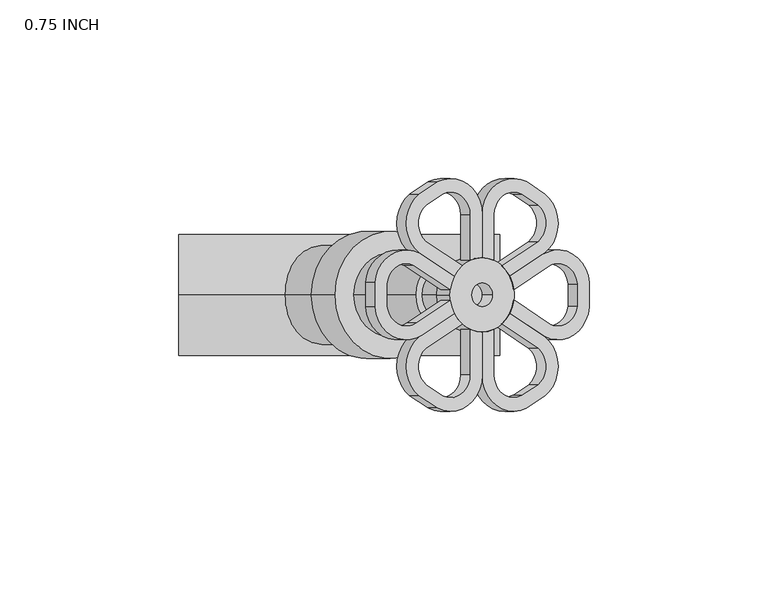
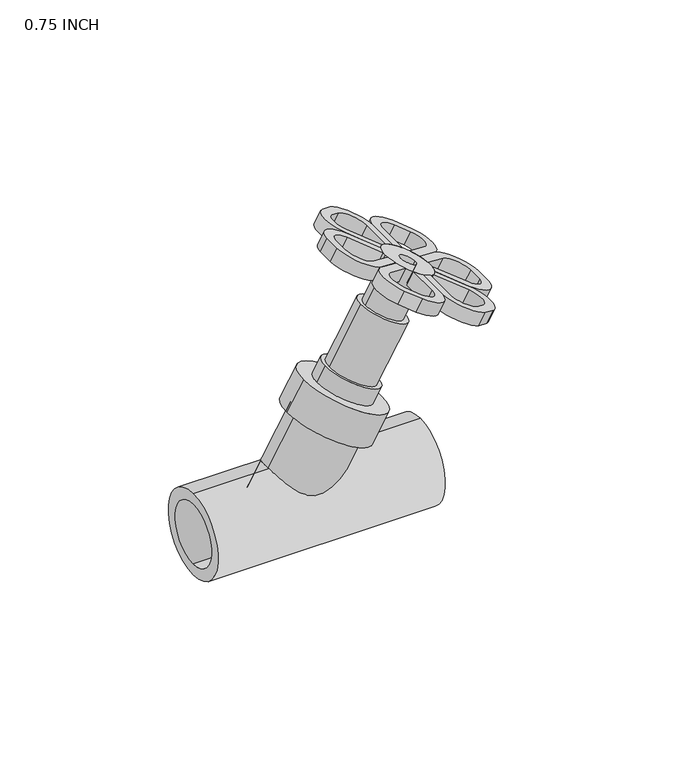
"""IFC4 building model written with IfcOpenShell, lengths in millimetres: valve geometry, Aquatherm - Inclined Check Valve without drain : 0.75 INCH."""

from ifc_helpers import new_model, si_unit, point, frame, frame_2d, origin, origin_2d, place, context, project, spatial, polyline, circle_curve, trimmed, segment, composite_curve, outline, extrude, source, transform, mapped, element, save
from ifc_brep_helpers import plane_surface, cylinder_surface, revolved_surface, advanced_brep


def valve_0_75_inch_640fbae8(model_context):
    return source(origin(), model_context, "Body", "SolidModel", [
        advanced_brep(
        [(114.5402275, 10.5951948, 70.7865852), (127.673244, 2.812243, 63.2042345), (127.6933625, -4.0695455, 63.1926191), (115.3276595, -12.3087434, 70.331961), (105.5382614, -5.7824779, 75.9838727), (106.6315816, -2.111949, 75.352644), (116.8175611, -8.902602, 69.471766), (124.3952492, -3.6900946, 65.0967857), (124.4112835, 2.4387005, 65.0875283), (116.1900059, 7.295638, 69.8340852), (106.6189846, 0.9149571, 75.3599169), (105.5106894, 4.5755028, 75.9997914), (117.2072275, 10.5951948, 75.4059647), (108.1776894, 4.5755028, 80.6191709), (109.2859846, 0.9149571, 79.9792964), (118.8570059, 7.295638, 74.4534647), (127.0567944, 2.4362397, 69.7193145), (127.077063, -3.691799, 69.7076124), (119.4845611, -8.902602, 74.0911455), (109.2985816, -2.111949, 79.9720235), (108.2052614, -5.7824779, 80.6032522), (117.9946595, -12.3087434, 74.9513405), (130.3455487, -4.0678412, 67.8205514), (130.3617331, 2.8147039, 67.8112073)],
        [
            (0, 1, circle_curve(frame((118.9321929, 1.8112639, 68.2508827), z_axis=(-0.49999999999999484, 0.0, -0.8660254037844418), x_axis=(0.4330127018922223, -0.866025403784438, -0.24999999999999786)), 10.1428098)),
            (1, 2, circle_curve(frame((97.7058937, -0.6194603, 80.5058923), z_axis=(-0.49999999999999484, 0.0, -0.8660254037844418), x_axis=(0.4330127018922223, -0.866025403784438, -0.24999999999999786)), 34.798)),
            (2, 3, circle_curve(frame((118.9378972, -3.0622214, 68.2475894), z_axis=(-0.49999999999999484, 0.0, -0.8660254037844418), x_axis=(0.4330127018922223, -0.866025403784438, -0.24999999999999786)), 10.1428098)),
            (3, 4),
            (4, 5, circle_curve(frame((97.7058937, -0.6194603, 80.5058923), z_axis=(0.49999999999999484, 0.0, 0.8660254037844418), x_axis=(0.41622412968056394, 0.8769321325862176, -0.2403071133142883)), 10.414)),
            (5, 6),
            (6, 7, circle_curve(frame((118.9378972, -3.0622214, 68.2475894), z_axis=(0.49999999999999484, 0.0, 0.8660254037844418), x_axis=(0.4330127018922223, -0.866025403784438, -0.24999999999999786)), 6.3328098)),
            (7, 8, circle_curve(frame((97.7058937, -0.6194603, 80.5058923), z_axis=(0.49999999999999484, 0.0, 0.8660254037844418), x_axis=(0.4330127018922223, -0.866025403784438, -0.24999999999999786)), 30.988)),
            (8, 9, circle_curve(frame((118.9321929, 1.8112639, 68.2508827), z_axis=(0.49999999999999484, 0.0, 0.8660254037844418), x_axis=(0.4330127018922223, -0.866025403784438, -0.24999999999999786)), 6.3328098)),
            (9, 10),
            (10, 11, circle_curve(frame((97.7001894, -0.6314972, 80.5091856), z_axis=(0.49999999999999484, 0.0, 0.8660254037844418), x_axis=(0.4330127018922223, -0.866025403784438, -0.24999999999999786)), 10.414)),
            (11, 0),
            (12, 13),
            (13, 14, circle_curve(frame((100.3671894, -0.6314972, 85.1285651), z_axis=(-0.49999999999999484, 0.0, -0.8660254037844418), x_axis=(0.4330127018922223, -0.866025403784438, -0.24999999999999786)), 10.414)),
            (14, 15),
            (15, 16, circle_curve(frame((121.5991929, 1.8112639, 72.8702622), z_axis=(-0.49999999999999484, 0.0, -0.8660254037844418), x_axis=(0.4330127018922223, -0.866025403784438, -0.24999999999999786)), 6.3328098)),
            (16, 17, circle_curve(frame((100.3728937, -0.6194603, 85.1252718), z_axis=(-0.49999999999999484, 0.0, -0.8660254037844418), x_axis=(0.4330127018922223, -0.866025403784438, -0.24999999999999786)), 30.988)),
            (17, 18, circle_curve(frame((121.6048972, -3.0622214, 72.8669689), z_axis=(-0.49999999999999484, 0.0, -0.8660254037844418), x_axis=(0.4330127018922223, -0.866025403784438, -0.24999999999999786)), 6.3328098)),
            (18, 19),
            (19, 20, circle_curve(frame((100.3728937, -0.6194603, 85.1252718), z_axis=(-0.49999999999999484, 0.0, -0.8660254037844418), x_axis=(0.41622412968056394, 0.8769321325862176, -0.2403071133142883)), 10.414)),
            (20, 21),
            (21, 22, circle_curve(frame((121.6048972, -3.0622214, 72.8669689), z_axis=(0.49999999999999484, 0.0, 0.8660254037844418), x_axis=(0.4330127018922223, -0.866025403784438, -0.24999999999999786)), 10.1428098)),
            (22, 23, circle_curve(frame((100.3728937, -0.6194603, 85.1252718), z_axis=(0.49999999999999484, 0.0, 0.8660254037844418), x_axis=(0.4330127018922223, -0.866025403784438, -0.24999999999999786)), 34.798)),
            (23, 12, circle_curve(frame((121.5991929, 1.8112639, 72.8702622), z_axis=(0.49999999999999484, 0.0, 0.8660254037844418), x_axis=(0.4330127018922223, -0.866025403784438, -0.24999999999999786)), 10.1428098)),
            (11, 13),
            (12, 0),
            (10, 14),
            (9, 15),
            (8, 16),
            (7, 17),
            (6, 18),
            (5, 19),
            (4, 20),
            (3, 21),
            (2, 22),
            (1, 23),
        ],
        [
            plane_surface(frame((123.3241584, -6.9726671, 65.7151803), z_axis=(-0.4999999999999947, 0.0, -0.8660254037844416), x_axis=(-0.7500000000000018, -0.5000000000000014, 0.43301270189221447))),
            plane_surface(frame((125.9911584, -6.9726671, 70.3345598), z_axis=(0.4999999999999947, 0.0, 0.8660254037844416), x_axis=(0.7500000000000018, 0.5000000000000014, -0.43301270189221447))),
            plane_surface(frame((105.5106894, 4.5755028, 75.9997914), z_axis=(-0.43301270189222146, 0.8660254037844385, 0.24999999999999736), x_axis=(0.49999999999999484, 0.0, 0.8660254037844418))),
            revolved_surface(polyline([(104.87658372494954, -9.650285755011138, 82.52506518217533), (102.2095836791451, -9.650285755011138, 77.90568559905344)]), (100.3671894, -0.6314972, 85.1285651), (0.49999999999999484, 0.0, 0.8660254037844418)),
            plane_surface(frame((116.1900059, 7.295638, 69.8340852), z_axis=(0.43301270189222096, -0.8660254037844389, -0.24999999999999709), x_axis=(0.49999999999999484, 0.0, 0.8660254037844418))),
            revolved_surface(polyline([(124.34138002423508, -3.6731102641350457, 71.2870598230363), (121.67437998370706, -3.6731102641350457, 66.66768024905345)]), (121.5991929, 1.8112639, 72.8702622), (0.49999999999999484, 0.0, 0.8660254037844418)),
            revolved_surface(polyline([(113.79109130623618, -27.455855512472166, 77.37827180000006), (111.12409130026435, -27.455855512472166, 72.7588922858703)]), (100.3728937, -0.6194603, 85.1252718), (0.49999999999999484, 0.0, 0.8660254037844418)),
            revolved_surface(polyline([(124.34708428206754, -8.546595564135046, 71.28376645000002), (121.68008426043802, -8.546595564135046, 66.66438690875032)]), (121.6048972, -3.0622214, 72.8669689), (0.49999999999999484, 0.0, 0.8660254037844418)),
            plane_surface(frame((106.6315816, -2.111949, 75.352644), z_axis=(0.4330127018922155, 0.8660254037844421, -0.2499999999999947), x_axis=(0.49999999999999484, 0.0, 0.8660254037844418))),
            revolved_surface(polyline([(104.70745179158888, 8.51291092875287, 82.62271353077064), (102.0404517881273, 8.51291092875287, 78.00333402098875)]), (100.3728937, -0.6194603, 85.1252718), (0.49999999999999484, 0.0, 0.8660254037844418)),
            plane_surface(frame((115.3276595, -12.3087434, 70.331961), z_axis=(-0.43301270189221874, -0.8660254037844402, 0.24999999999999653), x_axis=(0.49999999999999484, 0.0, 0.8660254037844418))),
            cylinder_surface(frame((121.6048972, -3.0622214, 72.8669689), z_axis=(-0.49999999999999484, 0.0, -0.8660254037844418), x_axis=(0.4330127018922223, -0.866025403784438, -0.24999999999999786)), 10.1428098),
            cylinder_surface(frame((100.3728937, -0.6194603, 85.1252718), z_axis=(-0.49999999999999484, 0.0, -0.8660254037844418), x_axis=(0.4330127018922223, -0.866025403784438, -0.24999999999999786)), 34.798),
            cylinder_surface(frame((121.5991929, 1.8112639, 72.8702622), z_axis=(-0.49999999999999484, 0.0, -0.8660254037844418), x_axis=(0.4330127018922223, -0.866025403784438, -0.24999999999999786)), 10.1428098),
        ],
        [
            (0, [[1, 2, 3, 4, 5, 6, 7, 8, 9, 10, 11, 12]]),
            (1, [[13, 14, 15, 16, 17, 18, 19, 20, 21, 22, 23, 24]]),
            (2, [[-12, 25, -13, 26]]),
            (3, [[-11, 27, -14, -25]]),
            (4, [[-10, 28, -15, -27]]),
            (5, [[-9, 29, -16, -28]]),
            (6, [[-8, 30, -17, -29]]),
            (7, [[-7, 31, -18, -30]]),
            (8, [[-6, 32, -19, -31]]),
            (9, [[-5, 33, -20, -32]]),
            (10, [[-4, 34, -21, -33]]),
            (11, [[-3, 35, -22, -34]]),
            (12, [[-2, 36, -23, -35]]),
            (13, [[-1, -26, -24, -36]]),
        ],
    ),
        advanced_brep(
        [(80.8601514, -11.8581892, 90.2317861), (67.7271349, -4.0752375, 97.8141367), (67.7070164, 2.8065511, 97.8257522), (80.0727194, 11.0457489, 90.6864102), (89.8621175, 4.5194835, 85.0344986), (88.7687973, 0.8489546, 85.6657273), (78.5828178, 7.6396076, 91.5466053), (71.0051297, 2.4271002, 95.9215856), (70.9890953, -3.7016949, 95.930843), (79.210373, -8.5586324, 91.1842861), (88.7813943, -2.1779516, 85.6584544), (89.8896894, -5.8384972, 85.0185799), (83.5271514, -11.8581892, 94.8511656), (92.5566894, -5.8384972, 89.6379594), (91.4483943, -2.1779516, 90.2778339), (81.877373, -8.5586324, 95.8036656), (73.6775845, -3.6992341, 100.5378157), (73.6573159, 2.4288045, 100.5495178), (81.2498178, 7.6396076, 96.1659848), (91.4357973, 0.8489546, 90.2851068), (92.5291175, 4.5194835, 89.6538781), (82.7397194, 11.0457489, 95.3057897), (70.3888302, 2.8048467, 102.4365789), (70.3726458, -4.0776983, 102.445923)],
        [
            (0, 1, circle_curve(frame((76.468186, -3.0742583, 92.7674886), z_axis=(-0.49999999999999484, 0.0, -0.8660254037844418), x_axis=(-0.4330127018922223, 0.866025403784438, 0.24999999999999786)), 10.1428098)),
            (1, 2, circle_curve(frame((97.6944852, -0.6435341, 80.512479), z_axis=(-0.49999999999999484, 0.0, -0.8660254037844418), x_axis=(-0.4330127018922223, 0.866025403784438, 0.24999999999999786)), 34.798)),
            (2, 3, circle_curve(frame((76.4624817, 1.7992269, 92.7707819), z_axis=(-0.49999999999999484, 0.0, -0.8660254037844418), x_axis=(-0.4330127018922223, 0.866025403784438, 0.24999999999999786)), 10.1428098)),
            (3, 4),
            (4, 5, circle_curve(frame((97.6944852, -0.6435341, 80.512479), z_axis=(0.49999999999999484, 0.0, 0.8660254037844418), x_axis=(-0.41622412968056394, -0.8769321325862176, 0.2403071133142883)), 10.414)),
            (5, 6),
            (6, 7, circle_curve(frame((76.4624817, 1.7992269, 92.7707819), z_axis=(0.49999999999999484, 0.0, 0.8660254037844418), x_axis=(-0.4330127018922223, 0.866025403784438, 0.24999999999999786)), 6.3328098)),
            (7, 8, circle_curve(frame((97.6944852, -0.6435341, 80.512479), z_axis=(0.49999999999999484, 0.0, 0.8660254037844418), x_axis=(-0.4330127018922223, 0.866025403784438, 0.24999999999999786)), 30.988)),
            (8, 9, circle_curve(frame((76.468186, -3.0742583, 92.7674886), z_axis=(0.49999999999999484, 0.0, 0.8660254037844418), x_axis=(-0.4330127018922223, 0.866025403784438, 0.24999999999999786)), 6.3328098)),
            (9, 10),
            (10, 11, circle_curve(frame((97.7001894, -0.6314972, 80.5091856), z_axis=(0.49999999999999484, 0.0, 0.8660254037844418), x_axis=(-0.4330127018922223, 0.866025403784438, 0.24999999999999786)), 10.414)),
            (11, 0),
            (12, 13),
            (13, 14, circle_curve(frame((100.3671894, -0.6314972, 85.1285651), z_axis=(-0.49999999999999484, 0.0, -0.8660254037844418), x_axis=(-0.4330127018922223, 0.866025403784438, 0.24999999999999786)), 10.414)),
            (14, 15),
            (15, 16, circle_curve(frame((79.135186, -3.0742583, 97.3868681), z_axis=(-0.49999999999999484, 0.0, -0.8660254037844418), x_axis=(-0.4330127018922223, 0.866025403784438, 0.24999999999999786)), 6.3328098)),
            (16, 17, circle_curve(frame((100.3614852, -0.6435341, 85.1318585), z_axis=(-0.49999999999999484, 0.0, -0.8660254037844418), x_axis=(-0.4330127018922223, 0.866025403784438, 0.24999999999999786)), 30.988)),
            (17, 18, circle_curve(frame((79.1294817, 1.7992269, 97.3901614), z_axis=(-0.49999999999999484, 0.0, -0.8660254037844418), x_axis=(-0.4330127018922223, 0.866025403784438, 0.24999999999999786)), 6.3328098)),
            (18, 19),
            (19, 20, circle_curve(frame((100.3614852, -0.6435341, 85.1318585), z_axis=(-0.49999999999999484, 0.0, -0.8660254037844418), x_axis=(-0.41622412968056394, -0.8769321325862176, 0.2403071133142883)), 10.414)),
            (20, 21),
            (21, 22, circle_curve(frame((79.1294817, 1.7992269, 97.3901614), z_axis=(0.49999999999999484, 0.0, 0.8660254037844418), x_axis=(-0.4330127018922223, 0.866025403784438, 0.24999999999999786)), 10.1428098)),
            (22, 23, circle_curve(frame((100.3614852, -0.6435341, 85.1318585), z_axis=(0.49999999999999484, 0.0, 0.8660254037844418), x_axis=(-0.4330127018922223, 0.866025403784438, 0.24999999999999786)), 34.798)),
            (23, 12, circle_curve(frame((79.135186, -3.0742583, 97.3868681), z_axis=(0.49999999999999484, 0.0, 0.8660254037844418), x_axis=(-0.4330127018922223, 0.866025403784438, 0.24999999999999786)), 10.1428098)),
            (0, 12),
            (23, 1),
            (22, 2),
            (21, 3),
            (20, 4),
            (19, 5),
            (18, 6),
            (17, 7),
            (16, 8),
            (15, 9),
            (14, 10),
            (13, 11),
        ],
        [
            plane_surface(frame((72.0762205, 5.7096726, 95.303191), z_axis=(-0.4999999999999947, 0.0, -0.8660254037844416), x_axis=(0.7500000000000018, 0.5000000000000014, -0.43301270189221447))),
            plane_surface(frame((74.7432205, 5.7096726, 99.9225705), z_axis=(0.4999999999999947, 0.0, 0.8660254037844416), x_axis=(-0.7500000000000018, -0.5000000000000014, 0.43301270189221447))),
            cylinder_surface(frame((79.135186, -3.0742583, 97.3868681), z_axis=(-0.49999999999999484, 0.0, -0.8660254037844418), x_axis=(-0.4330127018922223, 0.866025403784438, 0.24999999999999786)), 10.1428098),
            cylinder_surface(frame((100.3614852, -0.6435341, 85.1318585), z_axis=(-0.49999999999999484, 0.0, -0.8660254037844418), x_axis=(-0.4330127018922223, 0.866025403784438, 0.24999999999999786)), 34.798),
            cylinder_surface(frame((79.1294817, 1.7992269, 97.3901614), z_axis=(-0.49999999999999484, 0.0, -0.8660254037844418), x_axis=(-0.4330127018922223, 0.866025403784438, 0.24999999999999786)), 10.1428098),
            plane_surface(frame((80.0727194, 11.0457489, 90.6864102), z_axis=(0.43301270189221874, 0.8660254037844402, -0.24999999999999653), x_axis=(0.49999999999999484, 0.0, 0.8660254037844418))),
            revolved_surface(polyline([(96.02692711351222, -9.77590532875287, 87.63441677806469), (93.35992711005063, -9.77590532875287, 83.0150372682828)]), (100.3614852, -0.6435341, 85.1318585), (0.49999999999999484, 0.0, 0.8660254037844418)),
            plane_surface(frame((88.7687973, 0.8489546, 85.6657273), z_axis=(-0.43301270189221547, -0.8660254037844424, 0.24999999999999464), x_axis=(0.49999999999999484, 0.0, 0.8660254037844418))),
            revolved_surface(polyline([(76.38729462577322, 7.283601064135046, 98.97336386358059), (73.72029461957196, 7.283601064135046, 94.35398434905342)]), (79.1294817, 1.7992269, 97.3901614), (0.49999999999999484, 0.0, 0.8660254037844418)),
            revolved_surface(polyline([(86.94328759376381, 26.192861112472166, 92.87885849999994), (84.27628757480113, 26.192861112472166, 88.25947896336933)]), (100.3614852, -0.6435341, 85.1318585), (0.49999999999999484, 0.0, 0.8660254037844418)),
            revolved_surface(polyline([(76.39299891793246, 2.410115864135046, 98.97007054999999), (73.72599887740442, 2.410115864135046, 94.35069097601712)]), (79.135186, -3.0742583, 97.3868681), (0.49999999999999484, 0.0, 0.8660254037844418)),
            plane_surface(frame((79.210373, -8.5586324, 91.1842861), z_axis=(-0.43301270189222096, 0.8660254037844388, 0.24999999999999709), x_axis=(0.49999999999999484, 0.0, 0.8660254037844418))),
            revolved_surface(polyline([(95.85779514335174, 8.387291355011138, 87.73206513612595), (93.19079512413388, 8.387291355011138, 83.1126855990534)]), (100.3671894, -0.6314972, 85.1285651), (0.49999999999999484, 0.0, 0.8660254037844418)),
            plane_surface(frame((89.8896894, -5.8384972, 85.0185799), z_axis=(0.43301270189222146, -0.8660254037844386, -0.24999999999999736), x_axis=(0.49999999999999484, 0.0, 0.8660254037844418))),
        ],
        [
            (0, [[1, 2, 3, 4, 5, 6, 7, 8, 9, 10, 11, 12]]),
            (1, [[13, 14, 15, 16, 17, 18, 19, 20, 21, 22, 23, 24]]),
            (2, [[-1, 25, -24, 26]]),
            (3, [[-2, -26, -23, 27]]),
            (4, [[-3, -27, -22, 28]]),
            (5, [[-4, -28, -21, 29]]),
            (6, [[-5, -29, -20, 30]]),
            (7, [[-6, -30, -19, 31]]),
            (8, [[-7, -31, -18, 32]]),
            (9, [[-8, -32, -17, 33]]),
            (10, [[-9, -33, -16, 34]]),
            (11, [[-10, -34, -15, 35]]),
            (12, [[-11, -35, -14, 36]]),
            (13, [[-12, -36, -13, -25]]),
        ],
    ),
        advanced_brep(
        [(97.7001894, 21.8218868, 80.5091856), (97.7001894, 9.7825028, 80.5091856), (94.4006327, 9.0605251, 82.4141856), (94.4006327, 21.8218868, 82.4141856), (86.6561896, 27.5919762, 86.8854419), (82.0500264, 24.5482255, 89.5448115), (81.938175, 14.350322, 89.6093889), (92.1241545, 7.559669, 83.7285109), (89.9179179, 4.6310844, 85.0022822), (80.1285198, 11.1573498, 90.6541938), (80.1337518, 27.6286901, 90.6511731), (85.2875684, 31.086147, 87.6756157), (100.3671894, 21.8218868, 85.1285651), (87.9634674, 31.0634274, 92.2898574), (82.7920667, 27.6426517, 95.275567), (82.7955198, 11.1573498, 95.2735733), (92.5849179, 4.6310844, 89.6216617), (94.7911545, 7.559669, 88.3478904), (84.605175, 14.350322, 94.2287684), (84.7257115, 24.5342638, 94.1591766), (89.3142907, 27.6146957, 91.5099592), (97.0676327, 21.8218868, 87.0335651), (97.0676327, 9.0605251, 87.0335651), (100.3671894, 9.7825028, 85.1285651)],
        [
            (0, 1),
            (1, 2, circle_curve(frame((97.7001894, -0.6314972, 80.5091856), z_axis=(0.49999999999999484, 0.0, 0.8660254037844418), x_axis=(-0.8660254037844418, 0.0, 0.49999999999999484)), 10.414)),
            (2, 3),
            (3, 4, circle_curve(frame((88.9162585, 21.8218868, 85.5805905), z_axis=(0.49999999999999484, 0.0, 0.8660254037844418), x_axis=(-0.8660254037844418, 0.0, 0.49999999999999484)), 6.3328098)),
            (4, 5, circle_curve(frame((97.706365, -0.6197745, 80.5056202), z_axis=(0.49999999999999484, 0.0, 0.8660254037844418), x_axis=(-0.8660254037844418, 0.0, 0.49999999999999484)), 30.988)),
            (5, 6, circle_curve(frame((85.2582925, 19.3908484, 87.6925182), z_axis=(0.49999999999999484, 0.0, 0.8660254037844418), x_axis=(-0.8660254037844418, 0.0, 0.49999999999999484)), 6.3328098)),
            (6, 7),
            (7, 8, circle_curve(frame((97.706365, -0.6197745, 80.5056202), z_axis=(0.4999999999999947, 0.0, 0.8660254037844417), x_axis=(0.4495870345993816, 0.8546901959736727, -0.2595691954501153)), 10.414)),
            (8, 9),
            (9, 10, circle_curve(frame((85.2582925, 19.3908484, 87.6925182), z_axis=(-0.49999999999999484, 0.0, -0.8660254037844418), x_axis=(-0.8660254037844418, 0.0, 0.49999999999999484)), 10.1428098)),
            (10, 11, circle_curve(frame((97.706365, -0.6197745, 80.5056202), z_axis=(-0.49999999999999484, 0.0, -0.8660254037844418), x_axis=(-0.8660254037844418, 0.0, 0.49999999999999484)), 34.798)),
            (11, 0, circle_curve(frame((88.9162585, 21.8218868, 85.5805905), z_axis=(-0.49999999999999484, 0.0, -0.8660254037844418), x_axis=(-0.8660254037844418, 0.0, 0.49999999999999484)), 10.1428098)),
            (12, 13, circle_curve(frame((91.5832585, 21.8218868, 90.19997), z_axis=(0.49999999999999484, 0.0, 0.8660254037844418), x_axis=(-0.8660254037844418, 0.0, 0.49999999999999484)), 10.1428098)),
            (13, 14, circle_curve(frame((100.373365, -0.6197745, 85.1249997), z_axis=(0.49999999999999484, 0.0, 0.8660254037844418), x_axis=(-0.8660254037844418, 0.0, 0.49999999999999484)), 34.798)),
            (14, 15, circle_curve(frame((87.9252925, 19.3908484, 92.3118977), z_axis=(0.49999999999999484, 0.0, 0.8660254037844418), x_axis=(-0.8660254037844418, 0.0, 0.49999999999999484)), 10.1428098)),
            (15, 16),
            (16, 17, circle_curve(frame((100.373365, -0.6197745, 85.1249997), z_axis=(-0.4999999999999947, 0.0, -0.8660254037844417), x_axis=(0.4495870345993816, 0.8546901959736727, -0.2595691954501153)), 10.414)),
            (17, 18),
            (18, 19, circle_curve(frame((87.9252925, 19.3908484, 92.3118977), z_axis=(-0.49999999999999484, 0.0, -0.8660254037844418), x_axis=(-0.8660254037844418, 0.0, 0.49999999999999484)), 6.3328098)),
            (19, 20, circle_curve(frame((100.373365, -0.6197745, 85.1249997), z_axis=(-0.49999999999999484, 0.0, -0.8660254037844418), x_axis=(-0.8660254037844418, 0.0, 0.49999999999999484)), 30.988)),
            (20, 21, circle_curve(frame((91.5832585, 21.8218868, 90.19997), z_axis=(-0.49999999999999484, 0.0, -0.8660254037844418), x_axis=(-0.8660254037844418, 0.0, 0.49999999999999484)), 6.3328098)),
            (21, 22),
            (22, 23, circle_curve(frame((100.3671894, -0.6314972, 85.1285651), z_axis=(-0.49999999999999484, 0.0, -0.8660254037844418), x_axis=(-0.8660254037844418, 0.0, 0.49999999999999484)), 10.414)),
            (23, 12),
            (11, 13),
            (12, 0),
            (10, 14),
            (9, 15),
            (8, 16),
            (7, 17),
            (6, 18),
            (5, 19),
            (4, 20),
            (3, 21),
            (2, 22),
            (1, 23),
        ],
        [
            plane_surface(frame((97.7001894, 7.6235028, 80.5091856), z_axis=(-0.49999999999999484, 0.0, -0.8660254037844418), x_axis=(0.0, -1.0, 0.0))),
            plane_surface(frame((100.3671894, 7.6235028, 85.1285651), z_axis=(0.49999999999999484, 0.0, 0.8660254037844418), x_axis=(0.0, 1.0, 0.0))),
            cylinder_surface(frame((91.5832585, 21.8218868, 90.19997), z_axis=(-0.49999999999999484, 0.0, -0.8660254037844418), x_axis=(-0.8660254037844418, 0.0, 0.49999999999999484)), 10.1428098),
            cylinder_surface(frame((100.373365, -0.6197745, 85.1249997), z_axis=(-0.49999999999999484, 0.0, -0.8660254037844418), x_axis=(-0.8660254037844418, 0.0, 0.49999999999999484)), 34.798),
            cylinder_surface(frame((87.9252925, 19.3908484, 92.3118977), z_axis=(-0.49999999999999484, 0.0, -0.8660254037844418), x_axis=(-0.8660254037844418, 0.0, 0.49999999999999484)), 10.1428098),
            plane_surface(frame((89.9179179, 4.6310844, 85.0022822), z_axis=(-0.433012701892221, -0.8660254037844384, 0.24999999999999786), x_axis=(0.49999999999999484, 0.0, 0.8660254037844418))),
            revolved_surface(polyline([(105.05536437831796, 8.280969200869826, 82.4218460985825), (102.38836436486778, 8.280969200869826, 77.80246657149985)]), (100.373365, -0.6197745, 85.1249997), (0.49999999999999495, 0.0, 0.866025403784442)),
            plane_surface(frame((81.938175, 14.350322, 89.6093889), z_axis=(0.4330127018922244, 0.8660254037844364, -0.2499999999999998), x_axis=(0.49999999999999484, 0.0, 0.8660254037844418))),
            revolved_surface(polyline([(82.44091833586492, 19.3908484, 95.47830259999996), (79.77391832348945, 19.3908484, 90.85892307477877)]), (87.9252925, 19.3908484, 92.3118977), (0.49999999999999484, 0.0, 0.8660254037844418)),
            revolved_surface(polyline([(73.53696978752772, -0.6197745, 100.61899969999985), (70.86996977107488, -0.6197745, 95.99962016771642)]), (100.373365, -0.6197745, 85.1249997), (0.49999999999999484, 0.0, 0.8660254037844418)),
            revolved_surface(polyline([(86.09888434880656, 21.8218868, 93.36637492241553), (83.43188433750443, 21.8218868, 88.74699539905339)]), (91.5832585, 21.8218868, 90.19997), (0.49999999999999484, 0.0, 0.8660254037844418)),
            plane_surface(frame((94.4006327, 9.0605251, 82.4141856), z_axis=(-0.8660254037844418, 0.0, 0.49999999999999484), x_axis=(0.49999999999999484, 0.0, 0.8660254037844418))),
            revolved_surface(polyline([(91.3484008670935, -0.6314972, 90.3355651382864), (88.6814008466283, -0.6314972, 85.71618559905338)]), (100.3671894, -0.6314972, 85.1285651), (0.49999999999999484, 0.0, 0.8660254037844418)),
            plane_surface(frame((97.7001894, 21.8218868, 80.5091856), z_axis=(0.8660254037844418, 0.0, -0.49999999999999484), x_axis=(0.49999999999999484, 0.0, 0.8660254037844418))),
        ],
        [
            (0, [[1, 2, 3, 4, 5, 6, 7, 8, 9, 10, 11, 12]]),
            (1, [[13, 14, 15, 16, 17, 18, 19, 20, 21, 22, 23, 24]]),
            (2, [[-12, 25, -13, 26]]),
            (3, [[-11, 27, -14, -25]]),
            (4, [[-10, 28, -15, -27]]),
            (5, [[-9, 29, -16, -28]]),
            (6, [[-8, 30, -17, -29]]),
            (7, [[-7, 31, -18, -30]]),
            (8, [[-6, 32, -19, -31]]),
            (9, [[-5, 33, -20, -32]]),
            (10, [[-4, 34, -21, -33]]),
            (11, [[-3, 35, -22, -34]]),
            (12, [[-2, 36, -23, -35]]),
            (13, [[-1, -26, -24, -36]]),
        ],
    ),
        advanced_brep(
        [(97.7001894, 21.8218868, 80.5091856), (110.1039115, 31.0634274, 73.3478934), (115.2753122, 27.6426517, 70.3621838), (115.2718591, 11.1573498, 70.3641774), (105.4824609, 4.6310844, 76.0160891), (103.2762244, 7.559669, 77.2898604), (113.4622039, 14.350322, 71.4089824), (113.3416674, 24.5342638, 71.4785741), (108.7530882, 27.6146957, 74.1277916), (100.9997462, 21.8218868, 78.6041856), (100.9997462, 9.0605251, 78.6041856), (97.7001894, 9.7825028, 80.5091856), (100.3671894, 21.8218868, 85.1285651), (100.3671894, 9.7825028, 85.1285651), (103.6667462, 9.0605251, 83.2235651), (103.6667462, 21.8218868, 83.2235651), (111.4111892, 27.5919762, 78.7523089), (116.0173525, 24.5482255, 76.0929393), (116.1292039, 14.350322, 76.0283619), (105.9432244, 7.559669, 81.9092399), (108.1494609, 4.6310844, 80.6354686), (117.9388591, 11.1573498, 74.9835569), (117.933627, 27.6286901, 74.9865777), (112.7798105, 31.086147, 77.9621351)],
        [
            (0, 1, circle_curve(frame((106.4841204, 21.8218868, 75.4377807), z_axis=(-0.49999999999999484, 0.0, -0.8660254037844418), x_axis=(0.8660254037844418, 0.0, -0.49999999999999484)), 10.1428098)),
            (1, 2, circle_curve(frame((97.6940139, -0.6197745, 80.5127511), z_axis=(-0.49999999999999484, 0.0, -0.8660254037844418), x_axis=(0.8660254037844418, 0.0, -0.49999999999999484)), 34.798)),
            (2, 3, circle_curve(frame((110.1420864, 19.3908484, 73.3258531), z_axis=(-0.49999999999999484, 0.0, -0.8660254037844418), x_axis=(0.8660254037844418, 0.0, -0.49999999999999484)), 10.1428098)),
            (3, 4),
            (4, 5, circle_curve(frame((97.6940139, -0.6197745, 80.5127511), z_axis=(0.4999999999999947, 0.0, 0.8660254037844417), x_axis=(-0.4495870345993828, 0.854690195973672, 0.2595691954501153)), 10.414)),
            (5, 6),
            (6, 7, circle_curve(frame((110.1420864, 19.3908484, 73.3258531), z_axis=(0.49999999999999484, 0.0, 0.8660254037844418), x_axis=(0.8660254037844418, 0.0, -0.49999999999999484)), 6.3328098)),
            (7, 8, circle_curve(frame((97.6940139, -0.6197745, 80.5127511), z_axis=(0.49999999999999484, 0.0, 0.8660254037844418), x_axis=(0.8660254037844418, 0.0, -0.49999999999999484)), 30.988)),
            (8, 9, circle_curve(frame((106.4841204, 21.8218868, 75.4377807), z_axis=(0.49999999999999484, 0.0, 0.8660254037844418), x_axis=(0.8660254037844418, 0.0, -0.49999999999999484)), 6.3328098)),
            (9, 10),
            (10, 11, circle_curve(frame((97.7001894, -0.6314972, 80.5091856), z_axis=(0.49999999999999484, 0.0, 0.8660254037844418), x_axis=(0.8660254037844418, 0.0, -0.49999999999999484)), 10.414)),
            (11, 0),
            (12, 13),
            (13, 14, circle_curve(frame((100.3671894, -0.6314972, 85.1285651), z_axis=(-0.49999999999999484, 0.0, -0.8660254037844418), x_axis=(0.8660254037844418, 0.0, -0.49999999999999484)), 10.414)),
            (14, 15),
            (15, 16, circle_curve(frame((109.1511204, 21.8218868, 80.0571603), z_axis=(-0.49999999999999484, 0.0, -0.8660254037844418), x_axis=(0.8660254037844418, 0.0, -0.49999999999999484)), 6.3328098)),
            (16, 17, circle_curve(frame((100.3610139, -0.6197745, 85.1321306), z_axis=(-0.49999999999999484, 0.0, -0.8660254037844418), x_axis=(0.8660254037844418, 0.0, -0.49999999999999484)), 30.988)),
            (17, 18, circle_curve(frame((112.8090864, 19.3908484, 77.9452326), z_axis=(-0.49999999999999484, 0.0, -0.8660254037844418), x_axis=(0.8660254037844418, 0.0, -0.49999999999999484)), 6.3328098)),
            (18, 19),
            (19, 20, circle_curve(frame((100.3610139, -0.6197745, 85.1321306), z_axis=(-0.4999999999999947, 0.0, -0.8660254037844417), x_axis=(-0.4495870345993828, 0.854690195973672, 0.2595691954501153)), 10.414)),
            (20, 21),
            (21, 22, circle_curve(frame((112.8090864, 19.3908484, 77.9452326), z_axis=(0.49999999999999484, 0.0, 0.8660254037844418), x_axis=(0.8660254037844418, 0.0, -0.49999999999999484)), 10.1428098)),
            (22, 23, circle_curve(frame((100.3610139, -0.6197745, 85.1321306), z_axis=(0.49999999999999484, 0.0, 0.8660254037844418), x_axis=(0.8660254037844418, 0.0, -0.49999999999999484)), 34.798)),
            (23, 12, circle_curve(frame((109.1511204, 21.8218868, 80.0571603), z_axis=(0.49999999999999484, 0.0, 0.8660254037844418), x_axis=(0.8660254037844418, 0.0, -0.49999999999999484)), 10.1428098)),
            (11, 13),
            (12, 0),
            (10, 14),
            (9, 15),
            (8, 16),
            (7, 17),
            (6, 18),
            (5, 19),
            (4, 20),
            (3, 21),
            (2, 22),
            (1, 23),
        ],
        [
            plane_surface(frame((115.2680513, 21.8218868, 70.3663759), z_axis=(-0.49999999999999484, 0.0, -0.8660254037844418), x_axis=(0.0, -1.0, 0.0))),
            plane_surface(frame((117.9350513, 21.8218868, 74.9857554), z_axis=(0.49999999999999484, 0.0, 0.8660254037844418), x_axis=(0.0, 1.0, 0.0))),
            plane_surface(frame((97.7001894, 9.7825028, 80.5091856), z_axis=(-0.8660254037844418, 0.0, 0.49999999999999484), x_axis=(0.49999999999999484, 0.0, 0.8660254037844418))),
            revolved_surface(polyline([(109.38597795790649, -0.6314972, 79.92156510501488), (106.71897795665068, -0.6314972, 75.30218559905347)]), (100.3671894, -0.6314972, 85.1285651), (0.49999999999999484, 0.0, 0.8660254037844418)),
            plane_surface(frame((100.9997462, 21.8218868, 78.6041856), z_axis=(0.8660254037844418, 0.0, -0.49999999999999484), x_axis=(0.49999999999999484, 0.0, 0.8660254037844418))),
            revolved_surface(polyline([(114.63549456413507, 21.8218868, 76.89075540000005), (111.96849451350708, 21.8218868, 72.27137580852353)]), (109.1511204, 21.8218868, 80.0571603), (0.49999999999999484, 0.0, 0.8660254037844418)),
            revolved_surface(polyline([(127.19740911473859, -0.6197745, 69.6381306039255), (124.5304090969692, -0.6197745, 65.01875106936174)]), (100.3610139, -0.6197745, 85.1321306), (0.49999999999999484, 0.0, 0.8660254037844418)),
            revolved_surface(polyline([(118.29346057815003, 19.3908484, 74.77882772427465), (115.62646054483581, 19.3908484, 70.15944816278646)]), (112.8090864, 19.3908484, 77.9452326), (0.49999999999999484, 0.0, 0.8660254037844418)),
            plane_surface(frame((103.2762244, 7.559669, 77.2898604), z_axis=(-0.4330127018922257, 0.8660254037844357, 0.24999999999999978), x_axis=(0.49999999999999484, 0.0, 0.8660254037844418))),
            revolved_surface(polyline([(95.67901453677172, 8.28096920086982, 87.83528422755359), (93.01201451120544, 8.28096920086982, 83.21590467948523)]), (100.3610139, -0.6197745, 85.1321306), (0.49999999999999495, 0.0, 0.866025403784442)),
            plane_surface(frame((115.2718591, 11.1573498, 70.3641774), z_axis=(0.4330127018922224, -0.8660254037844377, -0.24999999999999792), x_axis=(0.49999999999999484, 0.0, 0.8660254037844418))),
            cylinder_surface(frame((112.8090864, 19.3908484, 77.9452326), z_axis=(-0.49999999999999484, 0.0, -0.8660254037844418), x_axis=(0.8660254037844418, 0.0, -0.49999999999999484)), 10.1428098),
            cylinder_surface(frame((100.3610139, -0.6197745, 85.1321306), z_axis=(-0.49999999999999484, 0.0, -0.8660254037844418), x_axis=(0.8660254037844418, 0.0, -0.49999999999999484)), 34.798),
            cylinder_surface(frame((109.1511204, 21.8218868, 80.0571603), z_axis=(-0.49999999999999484, 0.0, -0.8660254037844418), x_axis=(0.8660254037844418, 0.0, -0.49999999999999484)), 10.1428098),
        ],
        [
            (0, [[1, 2, 3, 4, 5, 6, 7, 8, 9, 10, 11, 12]]),
            (1, [[13, 14, 15, 16, 17, 18, 19, 20, 21, 22, 23, 24]]),
            (2, [[-12, 25, -13, 26]]),
            (3, [[-11, 27, -14, -25]]),
            (4, [[-10, 28, -15, -27]]),
            (5, [[-9, 29, -16, -28]]),
            (6, [[-8, 30, -17, -29]]),
            (7, [[-7, 31, -18, -30]]),
            (8, [[-6, 32, -19, -31]]),
            (9, [[-5, 33, -20, -32]]),
            (10, [[-4, 34, -21, -33]]),
            (11, [[-3, 35, -22, -34]]),
            (12, [[-2, 36, -23, -35]]),
            (13, [[-1, -26, -24, -36]]),
        ],
    ),
        advanced_brep(
        [(97.7001894, -23.0848812, 80.5091856), (85.2964674, -32.3264219, 87.6704779), (80.1250667, -28.9056461, 90.6561875), (80.1285198, -12.4203442, 90.6541938), (89.9179179, -5.8940788, 85.0022822), (92.1241545, -8.8226635, 83.7285109), (81.938175, -15.6133165, 89.6093889), (82.0587115, -25.7972583, 89.5397971), (86.6472907, -28.8776902, 86.8905797), (94.4006327, -23.0848812, 82.4141856), (94.4006327, -10.3235195, 82.4141856), (97.7001894, -11.0454972, 80.5091856), (100.3671894, -23.0848812, 85.1285651), (100.3671894, -11.0454972, 85.1285651), (97.0676327, -10.3235195, 87.0335651), (97.0676327, -23.0848812, 87.0335651), (89.3231896, -28.8549706, 91.5048214), (84.7170264, -25.8112199, 94.164191), (84.605175, -15.6133165, 94.2287684), (94.7911545, -8.8226635, 88.3478904), (92.5849179, -5.8940788, 89.6216617), (82.7955198, -12.4203442, 95.2735733), (82.8007518, -28.8916845, 95.2705526), (87.9545684, -32.3491414, 92.2949952)],
        [
            (0, 1, circle_curve(frame((88.9162585, -23.0848812, 85.5805905), z_axis=(-0.49999999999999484, 0.0, -0.8660254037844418), x_axis=(-0.8660254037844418, 0.0, 0.49999999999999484)), 10.1428098)),
            (1, 2, circle_curve(frame((97.706365, -0.6432199, 80.5056202), z_axis=(-0.49999999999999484, 0.0, -0.8660254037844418), x_axis=(-0.8660254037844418, 0.0, 0.49999999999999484)), 34.798)),
            (2, 3, circle_curve(frame((85.2582925, -20.6538429, 87.6925182), z_axis=(-0.49999999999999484, 0.0, -0.8660254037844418), x_axis=(-0.8660254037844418, 0.0, 0.49999999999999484)), 10.1428098)),
            (3, 4),
            (4, 5, circle_curve(frame((97.706365, -0.6432199, 80.5056202), z_axis=(0.4999999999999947, 0.0, 0.8660254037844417), x_axis=(0.4495870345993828, -0.854690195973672, -0.2595691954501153)), 10.414)),
            (5, 6),
            (6, 7, circle_curve(frame((85.2582925, -20.6538429, 87.6925182), z_axis=(0.49999999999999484, 0.0, 0.8660254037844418), x_axis=(-0.8660254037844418, 0.0, 0.49999999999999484)), 6.3328098)),
            (7, 8, circle_curve(frame((97.706365, -0.6432199, 80.5056202), z_axis=(0.49999999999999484, 0.0, 0.8660254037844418), x_axis=(-0.8660254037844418, 0.0, 0.49999999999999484)), 30.988)),
            (8, 9, circle_curve(frame((88.9162585, -23.0848812, 85.5805905), z_axis=(0.49999999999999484, 0.0, 0.8660254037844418), x_axis=(-0.8660254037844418, 0.0, 0.49999999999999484)), 6.3328098)),
            (9, 10),
            (10, 11, circle_curve(frame((97.7001894, -0.6314972, 80.5091856), z_axis=(0.49999999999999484, 0.0, 0.8660254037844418), x_axis=(-0.8660254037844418, 0.0, 0.49999999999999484)), 10.414)),
            (11, 0),
            (12, 13),
            (13, 14, circle_curve(frame((100.3671894, -0.6314972, 85.1285651), z_axis=(-0.49999999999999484, 0.0, -0.8660254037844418), x_axis=(-0.8660254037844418, 0.0, 0.49999999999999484)), 10.414)),
            (14, 15),
            (15, 16, circle_curve(frame((91.5832585, -23.0848812, 90.19997), z_axis=(-0.49999999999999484, 0.0, -0.8660254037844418), x_axis=(-0.8660254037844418, 0.0, 0.49999999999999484)), 6.3328098)),
            (16, 17, circle_curve(frame((100.373365, -0.6432199, 85.1249997), z_axis=(-0.49999999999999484, 0.0, -0.8660254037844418), x_axis=(-0.8660254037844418, 0.0, 0.49999999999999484)), 30.988)),
            (17, 18, circle_curve(frame((87.9252925, -20.6538429, 92.3118977), z_axis=(-0.49999999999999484, 0.0, -0.8660254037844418), x_axis=(-0.8660254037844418, 0.0, 0.49999999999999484)), 6.3328098)),
            (18, 19),
            (19, 20, circle_curve(frame((100.373365, -0.6432199, 85.1249997), z_axis=(-0.4999999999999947, 0.0, -0.8660254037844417), x_axis=(0.4495870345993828, -0.854690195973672, -0.2595691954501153)), 10.414)),
            (20, 21),
            (21, 22, circle_curve(frame((87.9252925, -20.6538429, 92.3118977), z_axis=(0.49999999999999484, 0.0, 0.8660254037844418), x_axis=(-0.8660254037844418, 0.0, 0.49999999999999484)), 10.1428098)),
            (22, 23, circle_curve(frame((100.373365, -0.6432199, 85.1249997), z_axis=(0.49999999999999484, 0.0, 0.8660254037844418), x_axis=(-0.8660254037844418, 0.0, 0.49999999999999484)), 34.798)),
            (23, 12, circle_curve(frame((91.5832585, -23.0848812, 90.19997), z_axis=(0.49999999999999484, 0.0, 0.8660254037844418), x_axis=(-0.8660254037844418, 0.0, 0.49999999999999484)), 10.1428098)),
            (0, 12),
            (23, 1),
            (22, 2),
            (21, 3),
            (20, 4),
            (19, 5),
            (18, 6),
            (17, 7),
            (16, 8),
            (15, 9),
            (14, 10),
            (13, 11),
        ],
        [
            plane_surface(frame((80.1323276, -23.0848812, 90.6519954), z_axis=(-0.49999999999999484, 0.0, -0.8660254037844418), x_axis=(0.0, 1.0, 0.0))),
            plane_surface(frame((82.7993276, -23.0848812, 95.2713749), z_axis=(0.49999999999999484, 0.0, 0.8660254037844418), x_axis=(0.0, -1.0, 0.0))),
            cylinder_surface(frame((91.5832585, -23.0848812, 90.19997), z_axis=(-0.49999999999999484, 0.0, -0.8660254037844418), x_axis=(-0.8660254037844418, 0.0, 0.49999999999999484)), 10.1428098),
            cylinder_surface(frame((100.373365, -0.6432199, 85.1249997), z_axis=(-0.49999999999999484, 0.0, -0.8660254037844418), x_axis=(-0.8660254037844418, 0.0, 0.49999999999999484)), 34.798),
            cylinder_surface(frame((87.9252925, -20.6538429, 92.3118977), z_axis=(-0.49999999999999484, 0.0, -0.8660254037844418), x_axis=(-0.8660254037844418, 0.0, 0.49999999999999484)), 10.1428098),
            plane_surface(frame((80.1285198, -12.4203442, 90.6541938), z_axis=(-0.4330127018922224, 0.8660254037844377, 0.24999999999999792), x_axis=(0.49999999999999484, 0.0, 0.8660254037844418))),
            revolved_surface(polyline([(105.05536437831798, -9.54396360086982, 82.4218460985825), (102.3883643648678, -9.54396360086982, 77.80246657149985)]), (100.373365, -0.6432199, 85.1249997), (0.49999999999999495, 0.0, 0.866025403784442)),
            plane_surface(frame((92.1241545, -8.8226635, 83.7285109), z_axis=(0.4330127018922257, -0.8660254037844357, -0.24999999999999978), x_axis=(0.49999999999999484, 0.0, 0.8660254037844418))),
            revolved_surface(polyline([(82.44091833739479, -20.6538429, 95.47830260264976), (79.77391831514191, -20.6538429, 90.85892306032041)]), (87.9252925, -20.6538429, 92.3118977), (0.49999999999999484, 0.0, 0.8660254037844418)),
            revolved_surface(polyline([(73.53696978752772, -0.6432199, 100.61899969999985), (70.86996976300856, -0.6432199, 95.99962015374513)]), (100.373365, -0.6432199, 85.1249997), (0.49999999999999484, 0.0, 0.8660254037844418)),
            revolved_surface(polyline([(86.09888434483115, -23.0848812, 93.3663749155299), (83.43188433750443, -23.0848812, 88.74699539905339)]), (91.5832585, -23.0848812, 90.19997), (0.49999999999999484, 0.0, 0.8660254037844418)),
            plane_surface(frame((94.4006327, -23.0848812, 82.4141856), z_axis=(-0.8660254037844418, 0.0, 0.49999999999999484), x_axis=(0.49999999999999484, 0.0, 0.8660254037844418))),
            revolved_surface(polyline([(91.3484008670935, -0.6314972, 90.3355651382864), (88.6814008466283, -0.6314972, 85.71618559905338)]), (100.3671894, -0.6314972, 85.1285651), (0.49999999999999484, 0.0, 0.8660254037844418)),
            plane_surface(frame((97.7001894, -11.0454972, 80.5091856), z_axis=(0.8660254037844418, 0.0, -0.49999999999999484), x_axis=(0.49999999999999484, 0.0, 0.8660254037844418))),
        ],
        [
            (0, [[1, 2, 3, 4, 5, 6, 7, 8, 9, 10, 11, 12]]),
            (1, [[13, 14, 15, 16, 17, 18, 19, 20, 21, 22, 23, 24]]),
            (2, [[-1, 25, -24, 26]]),
            (3, [[-2, -26, -23, 27]]),
            (4, [[-3, -27, -22, 28]]),
            (5, [[-4, -28, -21, 29]]),
            (6, [[-5, -29, -20, 30]]),
            (7, [[-6, -30, -19, 31]]),
            (8, [[-7, -31, -18, 32]]),
            (9, [[-8, -32, -17, 33]]),
            (10, [[-9, -33, -16, 34]]),
            (11, [[-10, -34, -15, 35]]),
            (12, [[-11, -35, -14, 36]]),
            (13, [[-12, -36, -13, -25]]),
        ],
    ),
        advanced_brep(
        [(97.7001894, -23.0848812, 80.5091856), (97.7001894, -11.0454972, 80.5091856), (100.9997462, -10.3235195, 78.6041856), (100.9997462, -23.0848812, 78.6041856), (108.7441892, -28.8549706, 74.1329294), (113.3503525, -25.8112199, 71.4735598), (113.4622039, -15.6133165, 71.4089824), (103.2762244, -8.8226635, 77.2898604), (105.4824609, -5.8940788, 76.0160891), (115.2718591, -12.4203442, 70.3641774), (115.266627, -28.8916845, 70.3671982), (110.1128105, -32.3491414, 73.3427556), (100.3671894, -23.0848812, 85.1285651), (112.7709115, -32.3264219, 77.9672729), (117.9423122, -28.9056461, 74.9815633), (117.9388591, -12.4203442, 74.9835569), (108.1494609, -5.8940788, 80.6354686), (105.9432244, -8.8226635, 81.9092399), (116.1292039, -15.6133165, 76.0283619), (116.0086674, -25.7972583, 76.0979537), (111.4200882, -28.8776902, 78.7471711), (103.6667462, -23.0848812, 83.2235651), (103.6667462, -10.3235195, 83.2235651), (100.3671894, -11.0454972, 85.1285651)],
        [
            (0, 1),
            (1, 2, circle_curve(frame((97.7001894, -0.6314972, 80.5091856), z_axis=(0.49999999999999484, 0.0, 0.8660254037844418), x_axis=(0.8660254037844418, 0.0, -0.49999999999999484)), 10.414)),
            (2, 3),
            (3, 4, circle_curve(frame((106.4841204, -23.0848812, 75.4377807), z_axis=(0.49999999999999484, 0.0, 0.8660254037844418), x_axis=(0.8660254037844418, 0.0, -0.49999999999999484)), 6.3328098)),
            (4, 5, circle_curve(frame((97.6940139, -0.6432199, 80.5127511), z_axis=(0.49999999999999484, 0.0, 0.8660254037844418), x_axis=(0.8660254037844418, 0.0, -0.49999999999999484)), 30.988)),
            (5, 6, circle_curve(frame((110.1420864, -20.6538429, 73.3258531), z_axis=(0.49999999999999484, 0.0, 0.8660254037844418), x_axis=(0.8660254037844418, 0.0, -0.49999999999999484)), 6.3328098)),
            (6, 7),
            (7, 8, circle_curve(frame((97.6940139, -0.6432199, 80.5127511), z_axis=(0.4999999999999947, 0.0, 0.8660254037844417), x_axis=(-0.4495870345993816, -0.8546901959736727, 0.2595691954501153)), 10.414)),
            (8, 9),
            (9, 10, circle_curve(frame((110.1420864, -20.6538429, 73.3258531), z_axis=(-0.49999999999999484, 0.0, -0.8660254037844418), x_axis=(0.8660254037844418, 0.0, -0.49999999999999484)), 10.1428098)),
            (10, 11, circle_curve(frame((97.6940139, -0.6432199, 80.5127511), z_axis=(-0.49999999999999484, 0.0, -0.8660254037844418), x_axis=(0.8660254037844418, 0.0, -0.49999999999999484)), 34.798)),
            (11, 0, circle_curve(frame((106.4841204, -23.0848812, 75.4377807), z_axis=(-0.49999999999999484, 0.0, -0.8660254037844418), x_axis=(0.8660254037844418, 0.0, -0.49999999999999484)), 10.1428098)),
            (12, 13, circle_curve(frame((109.1511204, -23.0848812, 80.0571603), z_axis=(0.49999999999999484, 0.0, 0.8660254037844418), x_axis=(0.8660254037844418, 0.0, -0.49999999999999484)), 10.1428098)),
            (13, 14, circle_curve(frame((100.3610139, -0.6432199, 85.1321306), z_axis=(0.49999999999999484, 0.0, 0.8660254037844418), x_axis=(0.8660254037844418, 0.0, -0.49999999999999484)), 34.798)),
            (14, 15, circle_curve(frame((112.8090864, -20.6538429, 77.9452326), z_axis=(0.49999999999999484, 0.0, 0.8660254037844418), x_axis=(0.8660254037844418, 0.0, -0.49999999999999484)), 10.1428098)),
            (15, 16),
            (16, 17, circle_curve(frame((100.3610139, -0.6432199, 85.1321306), z_axis=(-0.4999999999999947, 0.0, -0.8660254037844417), x_axis=(-0.4495870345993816, -0.8546901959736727, 0.2595691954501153)), 10.414)),
            (17, 18),
            (18, 19, circle_curve(frame((112.8090864, -20.6538429, 77.9452326), z_axis=(-0.49999999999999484, 0.0, -0.8660254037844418), x_axis=(0.8660254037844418, 0.0, -0.49999999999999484)), 6.3328098)),
            (19, 20, circle_curve(frame((100.3610139, -0.6432199, 85.1321306), z_axis=(-0.49999999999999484, 0.0, -0.8660254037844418), x_axis=(0.8660254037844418, 0.0, -0.49999999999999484)), 30.988)),
            (20, 21, circle_curve(frame((109.1511204, -23.0848812, 80.0571603), z_axis=(-0.49999999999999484, 0.0, -0.8660254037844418), x_axis=(0.8660254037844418, 0.0, -0.49999999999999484)), 6.3328098)),
            (21, 22),
            (22, 23, circle_curve(frame((100.3671894, -0.6314972, 85.1285651), z_axis=(-0.49999999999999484, 0.0, -0.8660254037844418), x_axis=(0.8660254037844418, 0.0, -0.49999999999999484)), 10.414)),
            (23, 12),
            (0, 12),
            (23, 1),
            (22, 2),
            (21, 3),
            (20, 4),
            (19, 5),
            (18, 6),
            (17, 7),
            (16, 8),
            (15, 9),
            (14, 10),
            (13, 11),
        ],
        [
            plane_surface(frame((97.7001894, -8.8864972, 80.5091856), z_axis=(-0.49999999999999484, 0.0, -0.8660254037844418), x_axis=(0.0, 1.0, 0.0))),
            plane_surface(frame((100.3671894, -8.8864972, 85.1285651), z_axis=(0.49999999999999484, 0.0, 0.8660254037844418), x_axis=(0.0, -1.0, 0.0))),
            plane_surface(frame((97.7001894, -23.0848812, 80.5091856), z_axis=(-0.8660254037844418, 0.0, 0.49999999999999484), x_axis=(0.49999999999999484, 0.0, 0.8660254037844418))),
            revolved_surface(polyline([(109.38597795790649, -0.6314972, 79.92156510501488), (106.71897795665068, -0.6314972, 75.30218559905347)]), (100.3671894, -0.6314972, 85.1285651), (0.49999999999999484, 0.0, 0.8660254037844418)),
            plane_surface(frame((100.9997462, -10.3235195, 78.6041856), z_axis=(0.8660254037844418, 0.0, -0.49999999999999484), x_axis=(0.49999999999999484, 0.0, 0.8660254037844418))),
            revolved_surface(polyline([(114.63549456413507, -23.0848812, 76.89075540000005), (111.96849451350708, -23.0848812, 72.27137580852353)]), (109.1511204, -23.0848812, 80.0571603), (0.49999999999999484, 0.0, 0.8660254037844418)),
            revolved_surface(polyline([(127.19740913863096, -0.6432199, 69.63813064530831), (124.53040910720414, -0.6432199, 65.01875108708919)]), (100.3610139, -0.6432199, 85.1321306), (0.49999999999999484, 0.0, 0.8660254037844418)),
            revolved_surface(polyline([(118.29346058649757, -20.6538429, 74.77882773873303), (115.62646056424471, -20.6538429, 70.15944819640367)]), (112.8090864, -20.6538429, 77.9452326), (0.49999999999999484, 0.0, 0.8660254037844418)),
            plane_surface(frame((113.4622039, -15.6133165, 71.4089824), z_axis=(-0.4330127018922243, -0.8660254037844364, 0.24999999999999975), x_axis=(0.49999999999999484, 0.0, 0.8660254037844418))),
            revolved_surface(polyline([(95.67901453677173, -9.543963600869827, 87.83528422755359), (93.01201451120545, -9.543963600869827, 83.21590467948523)]), (100.3610139, -0.6432199, 85.1321306), (0.49999999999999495, 0.0, 0.866025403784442)),
            plane_surface(frame((105.4824609, -5.8940788, 76.0160891), z_axis=(0.43301270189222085, 0.8660254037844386, -0.24999999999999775), x_axis=(0.49999999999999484, 0.0, 0.8660254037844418))),
            cylinder_surface(frame((112.8090864, -20.6538429, 77.9452326), z_axis=(-0.49999999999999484, 0.0, -0.8660254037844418), x_axis=(0.8660254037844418, 0.0, -0.49999999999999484)), 10.1428098),
            cylinder_surface(frame((100.3610139, -0.6432199, 85.1321306), z_axis=(-0.49999999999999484, 0.0, -0.8660254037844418), x_axis=(0.8660254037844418, 0.0, -0.49999999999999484)), 34.798),
            cylinder_surface(frame((109.1511204, -23.0848812, 80.0571603), z_axis=(-0.49999999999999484, 0.0, -0.8660254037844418), x_axis=(0.8660254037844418, 0.0, -0.49999999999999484)), 10.1428098),
        ],
        [
            (0, [[1, 2, 3, 4, 5, 6, 7, 8, 9, 10, 11, 12]]),
            (1, [[13, 14, 15, 16, 17, 18, 19, 20, 21, 22, 23, 24]]),
            (2, [[-1, 25, -24, 26]]),
            (3, [[-2, -26, -23, 27]]),
            (4, [[-3, -27, -22, 28]]),
            (5, [[-4, -28, -21, 29]]),
            (6, [[-5, -29, -20, 30]]),
            (7, [[-6, -30, -19, 31]]),
            (8, [[-7, -31, -18, 32]]),
            (9, [[-8, -32, -17, 33]]),
            (10, [[-9, -33, -16, 34]]),
            (11, [[-10, -34, -15, 35]]),
            (12, [[-11, -35, -14, 36]]),
            (13, [[-12, -36, -13, -25]]),
        ],
    ),
        extrude(outline(composite_curve([segment(trimmed(circle_curve(frame_2d((0.0, -10.414)), 10.414), [point((0.0, -20.828))], [point((0.0, 0.0))], False, "CARTESIAN"), True, "CONTINUOUS"), segment(trimmed(circle_curve(frame_2d((0.0, -10.414)), 10.414), [point((0.0, 0.0))], [point((0.0, -20.828))], False, "CARTESIAN"), True, "CONTINUOUS")], self_intersect=False), holes=[composite_curve([segment(trimmed(circle_curve(frame_2d((0.0, -10.414)), 3.302), [point((0.0, -13.716))], [point((0.0, -7.112))], True, "CARTESIAN"), True, "CONTINUOUS"), segment(trimmed(circle_curve(frame_2d((0.0, -10.414)), 3.302), [point((0.0, -7.112))], [point((0.0, -13.716))], True, "CARTESIAN"), True, "CONTINUOUS")], self_intersect=False)]), frame((105.702978, -0.6314972, 73.542422), z_axis=(0.49999999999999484, 0.0, 0.8660254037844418), x_axis=(0.0, -1.0, 0.0)), (0.0, 0.0, 1.0), 7.366),
        extrude(outline(composite_curve([segment(trimmed(circle_curve(origin_2d(), 7.874), [point((0.0, 7.8740001))], [point((0.0, -7.874))], False, "CARTESIAN"), True, "CONTINUOUS"), segment(trimmed(circle_curve(origin_2d(), 7.874), [point((0.0, -7.874))], [point((0.0, 7.8740001))], False, "CARTESIAN"), True, "CONTINUOUS")], self_intersect=False)), frame((90.4611894, -0.6314972, 67.9708698), z_axis=(0.4999999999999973, 0.0, 0.8660254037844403), x_axis=(0.0, -1.0, 0.0)), (0.0, 0.0, 1.0), 14.478),
        extrude(outline(composite_curve([segment(trimmed(circle_curve(origin_2d(), 9.906), [point((0.0, 9.906))], [point((0.0, -9.906))], False, "CARTESIAN"), True, "CONTINUOUS"), segment(trimmed(circle_curve(origin_2d(), 9.906), [point((0.0, -9.906))], [point((0.0, 9.906))], False, "CARTESIAN"), True, "CONTINUOUS")], self_intersect=False)), frame((77.8881894, -0.6314972, 46.193795), z_axis=(0.49999999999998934, 0.0, 0.8660254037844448), x_axis=(0.0, -1.0, 0.0)), (0.0, 0.0, 1.0), 25.146),
        extrude(outline(composite_curve([segment(trimmed(circle_curve(origin_2d(), 11.684), [point((0.0, 11.6840001))], [point((0.0, -11.684))], False, "CARTESIAN"), True, "CONTINUOUS"), segment(trimmed(circle_curve(origin_2d(), 11.684), [point((0.0, -11.684))], [point((0.0, 11.6840001))], False, "CARTESIAN"), True, "CONTINUOUS")], self_intersect=False)), frame((74.5861894, -0.6314972, 40.4745633), z_axis=(0.49999999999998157, 0.0, 0.8660254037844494), x_axis=(0.0, -1.0, 0.0)), (0.0, 0.0, 1.0), 6.604),
        extrude(outline(composite_curve([segment(trimmed(circle_curve(origin_2d(), 17.78), [point((0.0, 17.78))], [point((0.0, -17.7799999))], False, "CARTESIAN"), True, "CONTINUOUS"), segment(trimmed(circle_curve(origin_2d(), 17.78), [point((0.0, -17.7799999))], [point((0.0, 17.78))], False, "CARTESIAN"), True, "CONTINUOUS")], self_intersect=False)), frame((67.9821894, -0.6314972, 29.0360997), z_axis=(0.49999999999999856, 0.0, 0.8660254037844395), x_axis=(0.0, -1.0, 0.0)), (0.0, 0.0, 1.0), 13.208),
        extrude(outline(composite_curve([segment(trimmed(circle_curve(frame_2d((-0.6314972, 0.0)), 17.018), [point((-0.6314972, 17.018))], [point((-0.6314972, -17.018))], False, "CARTESIAN"), True, "CONTINUOUS"), segment(trimmed(circle_curve(frame_2d((-0.6314972, 0.0)), 17.018), [point((-0.6314972, -17.018))], [point((-0.6314972, 17.018))], False, "CARTESIAN"), True, "CONTINUOUS")], self_intersect=False), holes=[composite_curve([segment(trimmed(circle_curve(frame_2d((-0.6314972, 0.0)), 12.446), [point((-0.6314972, 12.446))], [point((-0.6314972, -12.446))], True, "CARTESIAN"), True, "CONTINUOUS"), segment(trimmed(circle_curve(frame_2d((-0.6314972, 0.0)), 12.446), [point((-0.6314972, -12.446))], [point((-0.6314972, 12.446))], True, "CARTESIAN"), True, "CONTINUOUS")], self_intersect=False)]), frame((15.4041894, 0.0, 0.0), z_axis=(1.0, 0.0, 0.0), x_axis=(0.0, 1.0, 0.0)), (0.0, 0.0, 1.0), 89.916),
        extrude(outline(composite_curve([segment(trimmed(circle_curve(origin_2d(), 13.97), [point((0.0, 13.97))], [point((0.0, -13.9699999))], False, "CARTESIAN"), True, "CONTINUOUS"), segment(trimmed(circle_curve(origin_2d(), 13.97), [point((0.0, -13.9699999))], [point((0.0, 13.97))], False, "CARTESIAN"), True, "CONTINUOUS")], self_intersect=False)), frame((51.2181894, -0.6314972, 0.0), z_axis=(0.4999999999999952, 0.0, 0.8660254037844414), x_axis=(0.0, -1.0, 0.0)), (0.0, 0.0, 1.0), 33.528),
    ])


if __name__ == "__main__":
    model = new_model("IFC4")
    model_context = context("Model", 3, world=origin())
    ifc_project = project(units=[si_unit("LENGTHUNIT", "METRE", prefix="MILLI")], contexts=[model_context])
    site = spatial("IfcSite", under=ifc_project)
    building = spatial("IfcBuilding", under=site)
    placement = place(None, origin())
    valve_0_75_inch_shape = valve_0_75_inch_640fbae8(model_context)
    element("IfcValve", 1, ObjectType="Aquatherm - Inclined Check Valve without drain : 0.75 INCH", at=placement, inside=building, context=model_context, shape_type="MappedRepresentation", body=[
        mapped(valve_0_75_inch_shape, transform((0.0, 0.0, 0.0), x_axis=(1.0, 0.0, 0.0), y_axis=(0.0, 1.0, 0.0), z_axis=(0.0, 0.0, 1.0))),
    ])
    save(model, "model.ifc")
